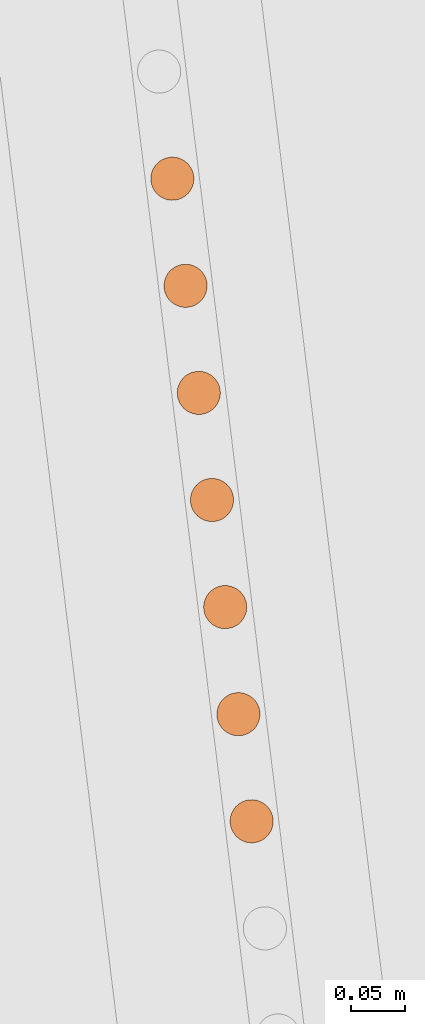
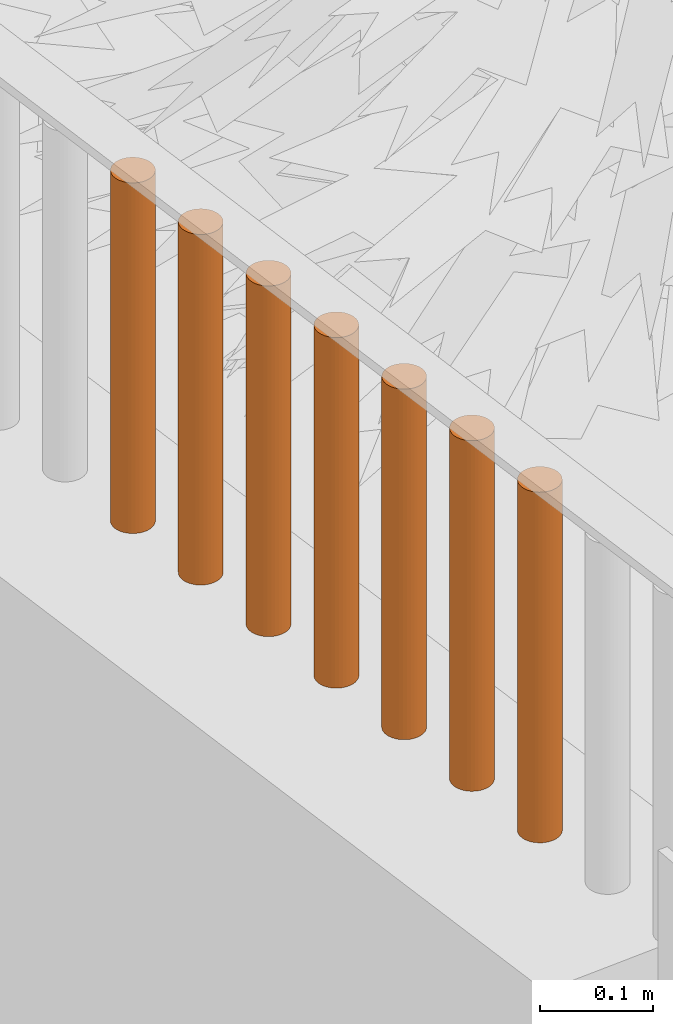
# One storey, part 53 of 1809: 7 proxies, 1 element without a shape of its own.
"""IFC2X3 building model written with IfcOpenShell, lengths in millimetres."""

from ifc_helpers import new_model, entity, si_unit, converted_unit, derived_unit, money_unit, direction, frame, origin_with_axes, place, context, subcontext, project, spatial, faceted_brep, source, transform, mapped, material, type_object, element, aggregate, save


model = new_model("IFC2X3")

# Units and contexts
model_context = context("Model", 3, precision=0.01, world=origin_with_axes(), true_north=direction((0.0, 1.0)))
body_context = subcontext(model_context, "Body", "Model", "MODEL_VIEW")
ifc_project = project(units=[si_unit("LENGTHUNIT", "METRE", prefix="MILLI"), si_unit("AREAUNIT", "SQUARE_METRE"), si_unit("VOLUMEUNIT", "CUBIC_METRE"), converted_unit("PLANEANGLEUNIT", "DEGREE", entity("IfcPlaneAngleMeasure", 0.0174532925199), si_unit("PLANEANGLEUNIT", "RADIAN"), dimensions=[0, 0, 0, 0, 0, 0, 0]), si_unit("SOLIDANGLEUNIT", "STERADIAN"), money_unit("EUR"), converted_unit("TIMEUNIT", "Year", entity("IfcTimeMeasure", 31556926.0), si_unit("TIMEUNIT", "SECOND"), dimensions=[0, 0, 1, 0, 0, 0, 0]), si_unit("MASSUNIT", "GRAM", prefix="KILO"), si_unit("THERMODYNAMICTEMPERATUREUNIT", "DEGREE_CELSIUS"), si_unit("LUMINOUSINTENSITYUNIT", "LUMEN"), si_unit("ENERGYUNIT", "JOULE", prefix="MEGA"), derived_unit("THERMALCONDUCTANCEUNIT", [(si_unit("POWERUNIT", "WATT"), 1), (si_unit("LENGTHUNIT", "METRE"), -1), (si_unit("THERMODYNAMICTEMPERATUREUNIT", "KELVIN"), -1)]), derived_unit("SPECIFICHEATCAPACITYUNIT", [(si_unit("ENERGYUNIT", "JOULE"), 1), (si_unit("MASSUNIT", "GRAM", prefix="KILO"), -1), (si_unit("THERMODYNAMICTEMPERATUREUNIT", "KELVIN"), -1)]), derived_unit("MASSDENSITYUNIT", [(si_unit("MASSUNIT", "GRAM", prefix="KILO"), 1), (si_unit("VOLUMEUNIT", "CUBIC_METRE"), -1)])], contexts=[model_context])

# Site, building, storey
site_placement = place(None, origin_with_axes())
site = spatial("IfcSite", under=ifc_project, at=site_placement, Name="Politse- ja Piirivalveameti ning Päästeameti ühishoone", CompositionType="ELEMENT")
building_placement = place(site_placement, origin_with_axes())
building = spatial("IfcBuilding", under=site, at=building_placement, Name="Politse- ja Piirivalveameti ning Päästeameti ühishoone", CompositionType="ELEMENT")
storey_placement = place(building_placement, origin_with_axes())
storey = spatial("IfcBuildingStorey", under=building, at=storey_placement, Name="Esimene korrus", CompositionType="ELEMENT", Elevation=0.0)

# Proxies
building_element_proxy_type_1 = type_object("IfcBuildingElementProxyType", Name="Railing Type", PredefinedType="NOTDEFINED")
proxy_1_placement = place(storey_placement, frame((-18956.5522504, -53688.4757966, 2100.0), z_axis=(0.0, 0.0, 1.0), x_axis=(1.0, 0.0, 0.0)))
proxy_1 = element("IfcBuildingElementProxy", 1, at=proxy_1_placement, inside=storey, type_object=building_element_proxy_type_1, Name="PIIRDEAED")
ifc_material = material(Name="ET-06_Teras - Konstruktsioon")
building_element_proxy_type_2 = type_object("IfcBuildingElementProxyType", Name="IfcBuildingElementProxy", PredefinedType="NOTDEFINED")
shared_shape_1 = source(origin_with_axes(), body_context, "Body", "Brep", [
    faceted_brep([(0.0, -20.0, 0.0), (3.47296355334, -19.6961550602, 0.0), (3.47296355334, -19.6961550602, 380.000012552), (0.0, -20.0, 380.000012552), (-3.47296355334, -19.6961550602, 0.0), (-6.84040286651, -18.7938524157, 0.0), (-10.0, -17.3205080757, 0.0), (-12.8557521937, -15.3208888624, 0.0), (-15.3208888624, -12.8557521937, 0.0), (-17.3205080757, -10.0, 0.0), (-18.7938524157, -6.84040286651, 0.0), (-19.6961550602, -3.47296355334, 0.0), (-20.0, 0.0, 0.0), (-19.6961550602, 3.47296355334, 0.0), (-18.7938524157, 6.84040286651, 0.0), (-17.3205080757, 10.0, 0.0), (-15.3208888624, 12.8557521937, 0.0), (-12.8557521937, 15.3208888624, 0.0), (-10.0, 17.3205080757, 0.0), (-6.84040286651, 18.7938524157, 0.0), (-3.47296355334, 19.6961550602, 0.0), (0.0, 20.0, 0.0), (3.47296355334, 19.6961550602, 0.0), (6.84040286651, 18.7938524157, 0.0), (10.0, 17.3205080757, 0.0), (12.8557521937, 15.3208888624, 0.0), (15.3208888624, 12.8557521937, 0.0), (17.3205080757, 10.0, 0.0), (18.7938524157, 6.84040286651, 0.0), (19.6961550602, 3.47296355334, 0.0), (20.0, 0.0, 0.0), (19.6961550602, -3.47296355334, 0.0), (18.7938524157, -6.84040286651, 0.0), (17.3205080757, -10.0, 0.0), (15.3208888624, -12.8557521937, 0.0), (12.8557521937, -15.3208888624, 0.0), (10.0, -17.3205080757, 0.0), (6.84040286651, -18.7938524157, 0.0), (6.84040286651, -18.7938524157, 380.000012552), (10.0, -17.3205080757, 380.000012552), (12.8557521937, -15.3208888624, 380.000012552), (15.3208888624, -12.8557521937, 380.000012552), (17.3205080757, -10.0, 380.000012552), (18.7938524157, -6.84040286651, 380.000012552), (19.6961550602, -3.47296355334, 380.000012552), (20.0, 0.0, 380.000012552), (19.6961550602, 3.47296355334, 380.000012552), (18.7938524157, 6.84040286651, 380.000012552), (17.3205080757, 10.0, 380.000012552), (15.3208888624, 12.8557521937, 380.000012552), (12.8557521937, 15.3208888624, 380.000012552), (10.0, 17.3205080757, 380.000012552), (6.84040286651, 18.7938524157, 380.000012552), (3.47296355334, 19.6961550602, 380.000012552), (0.0, 20.0, 380.000012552), (-3.47296355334, 19.6961550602, 380.000012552), (-6.84040286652, 18.7938524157, 380.000012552), (-10.0, 17.3205080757, 380.000012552), (-12.8557521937, 15.3208888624, 380.000012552), (-15.3208888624, 12.8557521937, 380.000012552), (-17.3205080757, 10.0, 380.000012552), (-18.7938524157, 6.84040286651, 380.000012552), (-19.6961550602, 3.47296355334, 380.000012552), (-20.0, 0.0, 380.000012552), (-19.6961550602, -3.47296355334, 380.000012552), (-18.7938524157, -6.84040286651, 380.000012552), (-17.3205080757, -10.0, 380.000012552), (-15.3208888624, -12.8557521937, 380.000012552), (-12.8557521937, -15.3208888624, 380.000012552), (-10.0, -17.3205080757, 380.000012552), (-6.84040286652, -18.7938524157, 380.000012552), (-3.47296355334, -19.6961550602, 380.000012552)], [[[0, 1, 2, 3]], [[0, 4, 5, 6, 7, 8, 9, 10, 11, 12, 13, 14, 15, 16, 17, 18, 19, 20, 21, 22, 23, 24, 25, 26, 27, 28, 29, 30, 31, 32, 33, 34, 35, 36, 37, 1]], [[1, 37, 38, 2]], [[3, 2, 38, 39, 40, 41, 42, 43, 44, 45, 46, 47, 48, 49, 50, 51, 52, 53, 54, 55, 56, 57, 58, 59, 60, 61, 62, 63, 64, 65, 66, 67, 68, 69, 70, 71]], [[4, 0, 3, 71]], [[5, 4, 71, 70]], [[6, 5, 70, 69]], [[7, 6, 69, 68]], [[8, 7, 68, 67]], [[9, 8, 67, 66]], [[10, 9, 66, 65]], [[11, 10, 65, 64]], [[12, 11, 64, 63]], [[13, 12, 63, 62]], [[14, 13, 62, 61]], [[15, 14, 61, 60]], [[16, 15, 60, 59]], [[17, 16, 59, 58]], [[18, 17, 58, 57]], [[19, 18, 57, 56]], [[20, 19, 56, 55]], [[21, 20, 55, 54]], [[22, 21, 54, 53]], [[23, 22, 53, 52]], [[24, 23, 52, 51]], [[25, 24, 51, 50]], [[26, 25, 50, 49]], [[27, 26, 49, 48]], [[28, 27, 48, 47]], [[29, 28, 47, 46]], [[30, 29, 46, 45]], [[31, 30, 45, 44]], [[32, 31, 44, 43]], [[33, 32, 43, 42]], [[34, 33, 42, 41]], [[35, 34, 41, 40]], [[36, 35, 40, 39]], [[37, 36, 39, 38]]]),
])
proxy_2_placement = place(proxy_1_placement, frame((-191.00448204, 713.391696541, -1.25517001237e-05), z_axis=(0.0, 0.0, 1.0), x_axis=(1.0, 0.0, 0.0)))
proxy_2 = element("IfcBuildingElementProxy", 2, at=proxy_2_placement, type_object=building_element_proxy_type_2, material=ifc_material, Name="BALUSTER - 001", context=body_context, shape_type="MappedRepresentation", body=[
    mapped(shared_shape_1, transform((0.0, 0.0, 0.0), x_axis=(0.992468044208, 0.122503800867, 0.0), y_axis=(-0.122503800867, 0.992468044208, 0.0), z_axis=(0.0, 0.0, 1.0))),
])
shared_shape_2 = source(origin_with_axes(), body_context, "Body", "Brep", [
    faceted_brep([(0.0, -20.0, 0.0), (3.47296355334, -19.6961550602, 0.0), (3.47296355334, -19.6961550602, 380.000012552), (0.0, -20.0, 380.000012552), (-3.47296355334, -19.6961550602, 0.0), (-6.84040286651, -18.7938524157, 0.0), (-10.0, -17.3205080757, 0.0), (-12.8557521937, -15.3208888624, 0.0), (-15.3208888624, -12.8557521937, 0.0), (-17.3205080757, -10.0, 0.0), (-18.7938524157, -6.84040286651, 0.0), (-19.6961550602, -3.47296355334, 0.0), (-20.0, 0.0, 0.0), (-19.6961550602, 3.47296355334, 0.0), (-18.7938524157, 6.84040286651, 0.0), (-17.3205080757, 10.0, 0.0), (-15.3208888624, 12.8557521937, 0.0), (-12.8557521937, 15.3208888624, 0.0), (-10.0, 17.3205080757, 0.0), (-6.84040286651, 18.7938524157, 0.0), (-3.47296355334, 19.6961550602, 0.0), (0.0, 20.0, 0.0), (3.47296355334, 19.6961550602, 0.0), (6.84040286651, 18.7938524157, 0.0), (10.0, 17.3205080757, 0.0), (12.8557521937, 15.3208888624, 0.0), (15.3208888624, 12.8557521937, 0.0), (17.3205080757, 10.0, 0.0), (18.7938524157, 6.84040286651, 0.0), (19.6961550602, 3.47296355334, 0.0), (20.0, 0.0, 0.0), (19.6961550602, -3.47296355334, 0.0), (18.7938524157, -6.84040286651, 0.0), (17.3205080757, -10.0, 0.0), (15.3208888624, -12.8557521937, 0.0), (12.8557521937, -15.3208888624, 0.0), (10.0, -17.3205080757, 0.0), (6.84040286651, -18.7938524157, 0.0), (6.84040286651, -18.7938524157, 380.000012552), (10.0, -17.3205080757, 380.000012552), (12.8557521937, -15.3208888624, 380.000012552), (15.3208888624, -12.8557521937, 380.000012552), (17.3205080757, -10.0, 380.000012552), (18.7938524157, -6.84040286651, 380.000012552), (19.6961550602, -3.47296355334, 380.000012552), (20.0, 0.0, 380.000012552), (19.6961550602, 3.47296355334, 380.000012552), (18.7938524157, 6.84040286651, 380.000012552), (17.3205080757, 10.0, 380.000012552), (15.3208888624, 12.8557521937, 380.000012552), (12.8557521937, 15.3208888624, 380.000012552), (10.0, 17.3205080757, 380.000012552), (6.84040286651, 18.7938524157, 380.000012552), (3.47296355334, 19.6961550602, 380.000012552), (0.0, 20.0, 380.000012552), (-3.47296355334, 19.6961550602, 380.000012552), (-6.84040286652, 18.7938524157, 380.000012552), (-10.0, 17.3205080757, 380.000012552), (-12.8557521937, 15.3208888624, 380.000012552), (-15.3208888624, 12.8557521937, 380.000012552), (-17.3205080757, 10.0, 380.000012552), (-18.7938524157, 6.84040286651, 380.000012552), (-19.6961550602, 3.47296355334, 380.000012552), (-20.0, 0.0, 380.000012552), (-19.6961550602, -3.47296355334, 380.000012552), (-18.7938524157, -6.84040286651, 380.000012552), (-17.3205080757, -10.0, 380.000012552), (-15.3208888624, -12.8557521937, 380.000012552), (-12.8557521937, -15.3208888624, 380.000012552), (-10.0, -17.3205080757, 380.000012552), (-6.84040286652, -18.7938524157, 380.000012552), (-3.47296355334, -19.6961550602, 380.000012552)], [[[0, 1, 2, 3]], [[0, 4, 5, 6, 7, 8, 9, 10, 11, 12, 13, 14, 15, 16, 17, 18, 19, 20, 21, 22, 23, 24, 25, 26, 27, 28, 29, 30, 31, 32, 33, 34, 35, 36, 37, 1]], [[1, 37, 38, 2]], [[3, 2, 38, 39, 40, 41, 42, 43, 44, 45, 46, 47, 48, 49, 50, 51, 52, 53, 54, 55, 56, 57, 58, 59, 60, 61, 62, 63, 64, 65, 66, 67, 68, 69, 70, 71]], [[4, 0, 3, 71]], [[5, 4, 71, 70]], [[6, 5, 70, 69]], [[7, 6, 69, 68]], [[8, 7, 68, 67]], [[9, 8, 67, 66]], [[10, 9, 66, 65]], [[11, 10, 65, 64]], [[12, 11, 64, 63]], [[13, 12, 63, 62]], [[14, 13, 62, 61]], [[15, 14, 61, 60]], [[16, 15, 60, 59]], [[17, 16, 59, 58]], [[18, 17, 58, 57]], [[19, 18, 57, 56]], [[20, 19, 56, 55]], [[21, 20, 55, 54]], [[22, 21, 54, 53]], [[23, 22, 53, 52]], [[24, 23, 52, 51]], [[25, 24, 51, 50]], [[26, 25, 50, 49]], [[27, 26, 49, 48]], [[28, 27, 48, 47]], [[29, 28, 47, 46]], [[30, 29, 46, 45]], [[31, 30, 45, 44]], [[32, 31, 44, 43]], [[33, 32, 43, 42]], [[34, 33, 42, 41]], [[35, 34, 41, 40]], [[36, 35, 40, 39]], [[37, 36, 39, 38]]]),
])
proxy_3_placement = place(proxy_1_placement, frame((-129.765957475, 217.266039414, -1.25517001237e-05), z_axis=(0.0, 0.0, 1.0), x_axis=(1.0, 0.0, 0.0)))
proxy_3 = element("IfcBuildingElementProxy", 3, at=proxy_3_placement, type_object=building_element_proxy_type_2, material=ifc_material, Name="BALUSTER - 001", context=body_context, shape_type="MappedRepresentation", body=[
    mapped(shared_shape_2, transform((0.0, 0.0, 0.0), x_axis=(0.992468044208, 0.122503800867, 0.0), y_axis=(-0.122503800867, 0.992468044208, 0.0), z_axis=(0.0, 0.0, 1.0))),
])
proxy_4_placement = place(proxy_1_placement, frame((-178.756777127, 614.166565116, -1.25517001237e-05), z_axis=(0.0, 0.0, 1.0), x_axis=(1.0, 0.0, 0.0)))
proxy_4 = element("IfcBuildingElementProxy", 4, at=proxy_4_placement, type_object=building_element_proxy_type_2, material=ifc_material, Name="BALUSTER - 001", context=body_context, shape_type="MappedRepresentation", body=[
    mapped(shared_shape_2, transform((0.0, 0.0, 0.0), x_axis=(0.992468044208, 0.122503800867, 0.0), y_axis=(-0.122503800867, 0.992468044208, 0.0), z_axis=(0.0, 0.0, 1.0))),
])
shared_shape_3 = source(origin_with_axes(), body_context, "Body", "Brep", [
    faceted_brep([(0.0, -20.0, 0.0), (3.47296355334, -19.6961550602, 0.0), (3.47296355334, -19.6961550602, 380.000012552), (0.0, -20.0, 380.000012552), (-3.47296355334, -19.6961550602, 0.0), (-6.84040286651, -18.7938524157, 0.0), (-10.0, -17.3205080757, 0.0), (-12.8557521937, -15.3208888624, 0.0), (-15.3208888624, -12.8557521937, 0.0), (-17.3205080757, -10.0, 0.0), (-18.7938524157, -6.84040286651, 0.0), (-19.6961550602, -3.47296355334, 0.0), (-20.0, 0.0, 0.0), (-19.6961550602, 3.47296355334, 0.0), (-18.7938524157, 6.84040286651, 0.0), (-17.3205080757, 10.0, 0.0), (-15.3208888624, 12.8557521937, 0.0), (-12.8557521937, 15.3208888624, 0.0), (-10.0, 17.3205080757, 0.0), (-6.84040286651, 18.7938524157, 0.0), (-3.47296355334, 19.6961550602, 0.0), (0.0, 20.0, 0.0), (3.47296355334, 19.6961550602, 0.0), (6.84040286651, 18.7938524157, 0.0), (10.0, 17.3205080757, 0.0), (12.8557521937, 15.3208888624, 0.0), (15.3208888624, 12.8557521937, 0.0), (17.3205080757, 10.0, 0.0), (18.7938524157, 6.84040286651, 0.0), (19.6961550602, 3.47296355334, 0.0), (20.0, 0.0, 0.0), (19.6961550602, -3.47296355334, 0.0), (18.7938524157, -6.84040286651, 0.0), (17.3205080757, -10.0, 0.0), (15.3208888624, -12.8557521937, 0.0), (12.8557521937, -15.3208888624, 0.0), (10.0, -17.3205080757, 0.0), (6.84040286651, -18.7938524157, 0.0), (6.84040286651, -18.7938524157, 380.000012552), (10.0, -17.3205080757, 380.000012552), (12.8557521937, -15.3208888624, 380.000012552), (15.3208888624, -12.8557521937, 380.000012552), (17.3205080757, -9.99999999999, 380.000012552), (18.7938524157, -6.84040286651, 380.000012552), (19.6961550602, -3.47296355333, 380.000012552), (20.0, 0.0, 380.000012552), (19.6961550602, 3.47296355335, 380.000012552), (18.7938524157, 6.84040286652, 380.000012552), (17.3205080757, 10.0, 380.000012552), (15.3208888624, 12.8557521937, 380.000012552), (12.8557521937, 15.3208888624, 380.000012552), (10.0, 17.3205080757, 380.000012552), (6.84040286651, 18.7938524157, 380.000012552), (3.47296355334, 19.6961550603, 380.000012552), (0.0, 20.0, 380.000012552), (-3.47296355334, 19.6961550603, 380.000012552), (-6.84040286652, 18.7938524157, 380.000012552), (-10.0, 17.3205080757, 380.000012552), (-12.8557521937, 15.3208888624, 380.000012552), (-15.3208888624, 12.8557521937, 380.000012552), (-17.3205080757, 10.0, 380.000012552), (-18.7938524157, 6.84040286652, 380.000012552), (-19.6961550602, 3.47296355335, 380.000012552), (-20.0, 0.0, 380.000012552), (-19.6961550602, -3.47296355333, 380.000012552), (-18.7938524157, -6.84040286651, 380.000012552), (-17.3205080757, -9.99999999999, 380.000012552), (-15.3208888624, -12.8557521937, 380.000012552), (-12.8557521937, -15.3208888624, 380.000012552), (-10.0, -17.3205080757, 380.000012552), (-6.84040286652, -18.7938524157, 380.000012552), (-3.47296355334, -19.6961550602, 380.000012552)], [[[0, 1, 2, 3]], [[0, 4, 5, 6, 7, 8, 9, 10, 11, 12, 13, 14, 15, 16, 17, 18, 19, 20, 21, 22, 23, 24, 25, 26, 27, 28, 29, 30, 31, 32, 33, 34, 35, 36, 37, 1]], [[1, 37, 38, 2]], [[3, 2, 38, 39, 40, 41, 42, 43, 44, 45, 46, 47, 48, 49, 50, 51, 52, 53, 54, 55, 56, 57, 58, 59, 60, 61, 62, 63, 64, 65, 66, 67, 68, 69, 70, 71]], [[4, 0, 3, 71]], [[5, 4, 71, 70]], [[6, 5, 70, 69]], [[7, 6, 69, 68]], [[8, 7, 68, 67]], [[9, 8, 67, 66]], [[10, 9, 66, 65]], [[11, 10, 65, 64]], [[12, 11, 64, 63]], [[13, 12, 63, 62]], [[14, 13, 62, 61]], [[15, 14, 61, 60]], [[16, 15, 60, 59]], [[17, 16, 59, 58]], [[18, 17, 58, 57]], [[19, 18, 57, 56]], [[20, 19, 56, 55]], [[21, 20, 55, 54]], [[22, 21, 54, 53]], [[23, 22, 53, 52]], [[24, 23, 52, 51]], [[25, 24, 51, 50]], [[26, 25, 50, 49]], [[27, 26, 49, 48]], [[28, 27, 48, 47]], [[29, 28, 47, 46]], [[30, 29, 46, 45]], [[31, 30, 45, 44]], [[32, 31, 44, 43]], [[33, 32, 43, 42]], [[34, 33, 42, 41]], [[35, 34, 41, 40]], [[36, 35, 40, 39]], [[37, 36, 39, 38]]]),
])
proxy_5_placement = place(proxy_1_placement, frame((-142.013662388, 316.491170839, -1.25517001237e-05), z_axis=(0.0, 0.0, 1.0), x_axis=(1.0, 0.0, 0.0)))
proxy_5 = element("IfcBuildingElementProxy", 5, at=proxy_5_placement, type_object=building_element_proxy_type_2, material=ifc_material, Name="BALUSTER - 001", context=body_context, shape_type="MappedRepresentation", body=[
    mapped(shared_shape_3, transform((0.0, 0.0, 0.0), x_axis=(0.992468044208, 0.122503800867, 0.0), y_axis=(-0.122503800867, 0.992468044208, 0.0), z_axis=(0.0, 0.0, 1.0))),
])
proxy_6_placement = place(proxy_1_placement, frame((-203.252186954, 812.616827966, -1.25517001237e-05), z_axis=(0.0, 0.0, 1.0), x_axis=(1.0, 0.0, 0.0)))
proxy_6 = element("IfcBuildingElementProxy", 6, at=proxy_6_placement, type_object=building_element_proxy_type_2, material=ifc_material, Name="BALUSTER - 001", context=body_context, shape_type="MappedRepresentation", body=[
    mapped(shared_shape_3, transform((0.0, 0.0, 0.0), x_axis=(0.992468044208, 0.122503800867, 0.0), y_axis=(-0.122503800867, 0.992468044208, 0.0), z_axis=(0.0, 0.0, 1.0))),
])
shared_shape_4 = source(origin_with_axes(), body_context, "Body", "Brep", [
    faceted_brep([(0.0, -20.0, 0.0), (3.47296355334, -19.6961550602, 0.0), (3.47296355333, -19.6961550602, 380.000012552), (0.0, -20.0, 380.000012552), (-3.47296355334, -19.6961550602, 0.0), (-6.84040286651, -18.7938524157, 0.0), (-10.0, -17.3205080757, 0.0), (-12.8557521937, -15.3208888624, 0.0), (-15.3208888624, -12.8557521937, 0.0), (-17.3205080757, -10.0, 0.0), (-18.7938524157, -6.84040286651, 0.0), (-19.6961550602, -3.47296355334, 0.0), (-20.0, 0.0, 0.0), (-19.6961550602, 3.47296355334, 0.0), (-18.7938524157, 6.84040286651, 0.0), (-17.3205080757, 10.0, 0.0), (-15.3208888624, 12.8557521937, 0.0), (-12.8557521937, 15.3208888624, 0.0), (-10.0, 17.3205080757, 0.0), (-6.84040286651, 18.7938524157, 0.0), (-3.47296355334, 19.6961550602, 0.0), (0.0, 20.0, 0.0), (3.47296355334, 19.6961550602, 0.0), (6.84040286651, 18.7938524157, 0.0), (10.0, 17.3205080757, 0.0), (12.8557521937, 15.3208888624, 0.0), (15.3208888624, 12.8557521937, 0.0), (17.3205080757, 10.0, 0.0), (18.7938524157, 6.84040286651, 0.0), (19.6961550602, 3.47296355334, 0.0), (20.0, 0.0, 0.0), (19.6961550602, -3.47296355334, 0.0), (18.7938524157, -6.84040286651, 0.0), (17.3205080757, -10.0, 0.0), (15.3208888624, -12.8557521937, 0.0), (12.8557521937, -15.3208888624, 0.0), (10.0, -17.3205080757, 0.0), (6.84040286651, -18.7938524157, 0.0), (6.84040286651, -18.7938524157, 380.000012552), (9.99999999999, -17.3205080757, 380.000012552), (12.8557521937, -15.3208888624, 380.000012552), (15.3208888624, -12.8557521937, 380.000012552), (17.3205080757, -10.0, 380.000012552), (18.7938524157, -6.84040286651, 380.000012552), (19.6961550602, -3.47296355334, 380.000012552), (20.0, 0.0, 380.000012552), (19.6961550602, 3.47296355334, 380.000012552), (18.7938524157, 6.84040286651, 380.000012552), (17.3205080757, 10.0, 380.000012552), (15.3208888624, 12.8557521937, 380.000012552), (12.8557521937, 15.3208888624, 380.000012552), (9.99999999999, 17.3205080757, 380.000012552), (6.84040286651, 18.7938524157, 380.000012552), (3.47296355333, 19.6961550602, 380.000012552), (0.0, 20.0, 380.000012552), (-3.47296355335, 19.6961550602, 380.000012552), (-6.84040286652, 18.7938524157, 380.000012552), (-10.0, 17.3205080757, 380.000012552), (-12.8557521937, 15.3208888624, 380.000012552), (-15.3208888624, 12.8557521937, 380.000012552), (-17.3205080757, 10.0, 380.000012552), (-18.7938524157, 6.84040286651, 380.000012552), (-19.6961550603, 3.47296355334, 380.000012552), (-20.0, 0.0, 380.000012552), (-19.6961550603, -3.47296355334, 380.000012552), (-18.7938524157, -6.84040286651, 380.000012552), (-17.3205080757, -10.0, 380.000012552), (-15.3208888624, -12.8557521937, 380.000012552), (-12.8557521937, -15.3208888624, 380.000012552), (-10.0, -17.3205080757, 380.000012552), (-6.84040286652, -18.7938524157, 380.000012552), (-3.47296355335, -19.6961550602, 380.000012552)], [[[0, 1, 2, 3]], [[0, 4, 5, 6, 7, 8, 9, 10, 11, 12, 13, 14, 15, 16, 17, 18, 19, 20, 21, 22, 23, 24, 25, 26, 27, 28, 29, 30, 31, 32, 33, 34, 35, 36, 37, 1]], [[1, 37, 38, 2]], [[3, 2, 38, 39, 40, 41, 42, 43, 44, 45, 46, 47, 48, 49, 50, 51, 52, 53, 54, 55, 56, 57, 58, 59, 60, 61, 62, 63, 64, 65, 66, 67, 68, 69, 70, 71]], [[4, 0, 3, 71]], [[5, 4, 71, 70]], [[6, 5, 70, 69]], [[7, 6, 69, 68]], [[8, 7, 68, 67]], [[9, 8, 67, 66]], [[10, 9, 66, 65]], [[11, 10, 65, 64]], [[12, 11, 64, 63]], [[13, 12, 63, 62]], [[14, 13, 62, 61]], [[15, 14, 61, 60]], [[16, 15, 60, 59]], [[17, 16, 59, 58]], [[18, 17, 58, 57]], [[19, 18, 57, 56]], [[20, 19, 56, 55]], [[21, 20, 55, 54]], [[22, 21, 54, 53]], [[23, 22, 53, 52]], [[24, 23, 52, 51]], [[25, 24, 51, 50]], [[26, 25, 50, 49]], [[27, 26, 49, 48]], [[28, 27, 48, 47]], [[29, 28, 47, 46]], [[30, 29, 46, 45]], [[31, 30, 45, 44]], [[32, 31, 44, 43]], [[33, 32, 43, 42]], [[34, 33, 42, 41]], [[35, 34, 41, 40]], [[36, 35, 40, 39]], [[37, 36, 39, 38]]]),
])
proxy_7_placement = place(proxy_1_placement, frame((-154.261367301, 415.716302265, -1.25517001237e-05), z_axis=(0.0, 0.0, 1.0), x_axis=(1.0, 0.0, 0.0)))
proxy_7 = element("IfcBuildingElementProxy", 7, at=proxy_7_placement, type_object=building_element_proxy_type_2, material=ifc_material, Name="BALUSTER - 001", context=body_context, shape_type="MappedRepresentation", body=[
    mapped(shared_shape_4, transform((0.0, 0.0, 0.0), x_axis=(0.992468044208, 0.122503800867, 0.0), y_axis=(-0.122503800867, 0.992468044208, 0.0), z_axis=(0.0, 0.0, 1.0))),
])
proxy_8_placement = place(proxy_1_placement, frame((-166.509072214, 514.94143369, -1.25517001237e-05), z_axis=(0.0, 0.0, 1.0), x_axis=(1.0, 0.0, 0.0)))
proxy_8 = element("IfcBuildingElementProxy", 8, at=proxy_8_placement, type_object=building_element_proxy_type_2, material=ifc_material, Name="BALUSTER - 001", context=body_context, shape_type="MappedRepresentation", body=[
    mapped(shared_shape_4, transform((0.0, 0.0, 0.0), x_axis=(0.992468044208, 0.122503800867, 0.0), y_axis=(-0.122503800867, 0.992468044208, 0.0), z_axis=(0.0, 0.0, 1.0))),
])
aggregate(proxy_1, [proxy_3, proxy_5, proxy_7, proxy_8, proxy_4, proxy_2, proxy_6])

save(model, "model.ifc")
